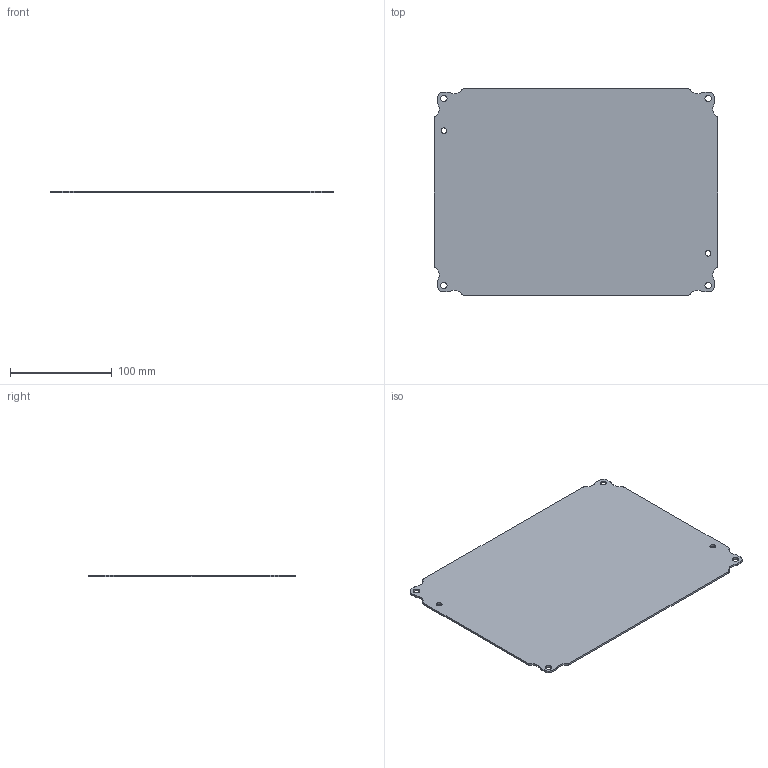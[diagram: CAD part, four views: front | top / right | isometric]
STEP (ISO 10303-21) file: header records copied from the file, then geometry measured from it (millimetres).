
FILE_DESCRIPTION((''),'2;1');
FILE_NAME('MODEL-086_ASM','2018-03-27T09:44:53',('johnh'),('SAGINAW CONTROL & ENGINEERING'),'CREO PARAMETRIC BY PTC INC, 2017260','CREO PARAMETRIC BY PTC INC, 2017260','');
FILE_SCHEMA(('AUTOMOTIVE_DESIGN { 1 0 10303 214 1 1 1 1 }'));
Length unit declared in the file: inch
Products named in the file (2): MODEL-086-SUBPNL; MODEL-086_ASM
Assembly tree (1 placements, depth 2):
  MODEL-086_ASM
    MODEL-086-SUBPNL
Bounding box: 279.4 x 203.2 x 1.91 mm (x, y, z)
Volume: 106346.8 mm3; surface area: 113666.8 mm2
Topology: 1 solids, 1 shells, 54 faces, 156 edges, 104 vertices
Faces by surface type: cylinder 40, plane 14
Entity records: 2983 total; most frequent: DIRECTION 350, CARTESIAN_POINT 321, ORIENTED_EDGE 312, PRESENTATION_STYLE_ASSIGNMENT 157, STYLED_ITEM 157, CURVE_STYLE 156, EDGE_CURVE 156, AXIS2_PLACEMENT_3D 137
